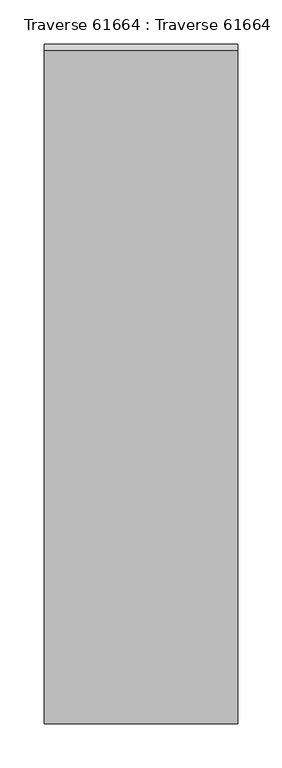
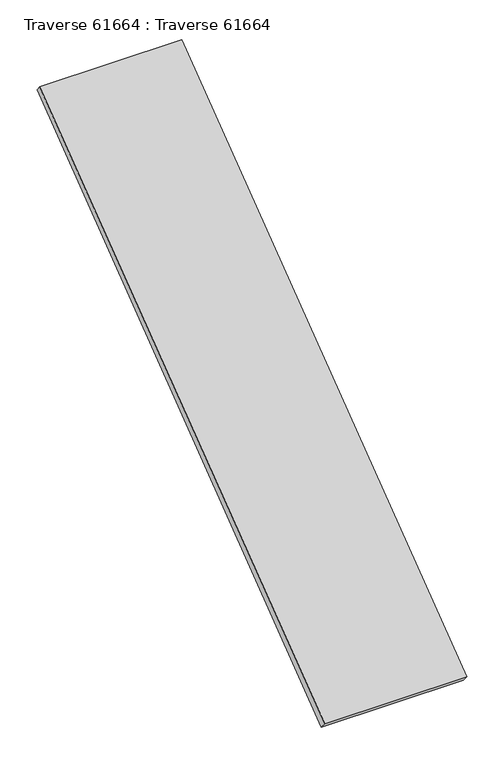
"""IFC4 building model written with IfcOpenShell, lengths in millimetres: beam geometry, Traverse 61664 : Traverse 61664."""

import ifcopenshell
import ifcopenshell.guid

model = None  # the IFC model being written
_history = None  # IfcOwnerHistory: only IFC2X3 demands one
_inside = {}  # id of a spatial element -> (the spatial element, [elements in it])
_under = {}  # id of a project, library or spatial element -> (it, [spatial elements below it])
_declared = {}  # id of a project -> (the project, [libraries it declares])
_typed = {}  # id of a type object -> (the type object, [elements of that type])
_made_of = {}  # id of a material, layer set ... -> (it, [elements and type objects made of it])


def new_model(schema):
    """Start an empty IFC model of exactly this schema.

    Asked for "IFC4X3", IfcOpenShell would pick the latest addendum, in which some entities
    have other attributes; the version numbers below select the first issue.
    IFC2X3 requires an IfcOwnerHistory on every rooted entity: one is made here for all.
    """
    global model, _history
    if schema == "IFC4X3":
        model = ifcopenshell.file(schema_version=(4, 3, 0, 0))
    else:
        model = ifcopenshell.file(schema=schema)
    _inside.clear()
    _under.clear()
    _declared.clear()
    _typed.clear()
    _made_of.clear()
    _history = None
    if model.schema == "IFC2X3":
        org = make("IfcOrganization", Name="unknown")
        user = make(
            "IfcPersonAndOrganization",
            ThePerson=make("IfcPerson", FamilyName="unknown"),
            TheOrganization=org,
        )
        app = make(
            "IfcApplication",
            ApplicationDeveloper=org,
            Version="unknown",
            ApplicationFullName="unknown",
            ApplicationIdentifier="unknown",
        )
        _history = make(
            "IfcOwnerHistory",
            OwningUser=user,
            OwningApplication=app,
            ChangeAction="ADDED",
            CreationDate=0,
        )
    return model


def make(cls, **values):
    """One entity of the class cls with the attributes given. An attribute that is None is left unset."""
    return model.create_entity(
        cls, **{name: value for name, value in values.items() if value is not None}
    )


def rooted(cls, **values):
    """An entity with a GlobalId (a new one), such as an element, a storey or a relation."""
    return make(cls, GlobalId=ifcopenshell.guid.new(), OwnerHistory=_history, **values)


def si_unit(unit_type, name, prefix=None):
    """IfcSIUnit, for example si_unit("LENGTHUNIT", "METRE", prefix="MILLI")."""
    return make("IfcSIUnit", UnitType=unit_type, Prefix=prefix, Name=name)


def assignment(units):
    """IfcUnitAssignment: the units of a project."""
    return None if units is None else make("IfcUnitAssignment", Units=units)


def point(xyz):
    """IfcCartesianPoint."""
    return None if xyz is None else make("IfcCartesianPoint", Coordinates=xyz)


def direction(xyz):
    """IfcDirection."""
    return None if xyz is None else make("IfcDirection", DirectionRatios=xyz)


def frame(location, z_axis=None, x_axis=None):
    """IfcAxis2Placement3D, a coordinate frame: its origin and axes. An axis left out is left unset."""
    return make(
        "IfcAxis2Placement3D",
        Location=point(location),
        Axis=direction(z_axis),
        RefDirection=direction(x_axis),
    )


def origin():
    """The frame at (0, 0, 0) with its axes left unset."""
    return frame((0.0, 0.0, 0.0))


def place(relative_to, where):
    """IfcLocalPlacement: puts the frame where relative to a parent placement (None: the world)."""
    return make(
        "IfcLocalPlacement", PlacementRelTo=relative_to, RelativePlacement=where
    )


def context(
    kind, dimensions, precision=None, world=None, true_north=None, identifier=None
):
    """IfcGeometricRepresentationContext, for example the 3D "Model" context."""
    return make(
        "IfcGeometricRepresentationContext",
        ContextIdentifier=identifier,
        ContextType=kind,
        CoordinateSpaceDimension=dimensions,
        Precision=precision,
        WorldCoordinateSystem=world,
        TrueNorth=true_north,
    )


def project(units=None, contexts=None):
    """IfcProject with its units and contexts."""
    return rooted(
        "IfcProject",
        Name="project",
        RepresentationContexts=contexts,
        UnitsInContext=assignment(units),
    )


def spatial(cls, under=None, at=None, **own):
    """A site, building, storey or space (cls), placed at a placement, below another one or the project."""
    s = rooted(cls, ObjectPlacement=at, **own)
    if under is not None:
        _under.setdefault(under.id(), (under, []))[1].append(s)
    return s


def polyline(points):
    """IfcPolyline through the points."""
    return make("IfcPolyline", Points=[point(p) for p in points])


def outline(outer, holes=None, kind="AREA"):
    """IfcArbitraryClosedProfileDef: a profile drawn as a closed curve; with holes, ...WithVoids."""
    if holes is None:
        return make("IfcArbitraryClosedProfileDef", ProfileType=kind, OuterCurve=outer)
    return make(
        "IfcArbitraryProfileDefWithVoids",
        ProfileType=kind,
        OuterCurve=outer,
        InnerCurves=holes,
    )


def extrude(swept, where, along, depth):
    """IfcExtrudedAreaSolid: the profile swept, set in the frame where, extruded along a direction by depth."""
    return make(
        "IfcExtrudedAreaSolid",
        SweptArea=swept,
        Position=where,
        ExtrudedDirection=direction(along),
        Depth=depth,
    )


def shape(context_of_items, identifier, shape_type, items):
    """IfcShapeRepresentation: the items that make up one representation, for example the "Body"."""
    return make(
        "IfcShapeRepresentation",
        ContextOfItems=context_of_items,
        RepresentationIdentifier=identifier,
        RepresentationType=shape_type,
        Items=items,
    )


def source(mapping_origin, context_of_items, identifier, shape_type, items):
    """IfcRepresentationMap: a shape defined once, which mapped items show again and again."""
    return make(
        "IfcRepresentationMap",
        MappingOrigin=mapping_origin,
        MappedRepresentation=shape(context_of_items, identifier, shape_type, items),
    )


def transform(
    local_origin,
    x_axis=None,
    y_axis=None,
    z_axis=None,
    scale=None,
    scale2=None,
    scale3=None,
    uniform=True,
):
    """IfcCartesianTransformationOperator3D, or its non-uniform kind. x_axis, y_axis, z_axis: its Axis1, 2, 3."""
    if uniform:
        return make(
            "IfcCartesianTransformationOperator3D",
            Axis1=direction(x_axis),
            Axis2=direction(y_axis),
            LocalOrigin=point(local_origin),
            Scale=scale,
            Axis3=direction(z_axis),
        )
    return make(
        "IfcCartesianTransformationOperator3DnonUniform",
        Axis1=direction(x_axis),
        Axis2=direction(y_axis),
        LocalOrigin=point(local_origin),
        Scale=scale,
        Axis3=direction(z_axis),
        Scale2=scale2,
        Scale3=scale3,
    )


def mapped(mapping_source, mapping_target):
    """IfcMappedItem: shows the shape of a source again, moved by a transform."""
    return make(
        "IfcMappedItem", MappingSource=mapping_source, MappingTarget=mapping_target
    )


def made_of(thing, what):
    """Note that an element or type object is made of a material, layer set ...; save() writes the relation."""
    if what is not None:
        _made_of.setdefault(what.id(), (what, []))[1].append(thing)
    return thing


def element(
    cls,
    number,
    at=None,
    inside=None,
    cuts=None,
    type_object=None,
    material=None,
    context=None,
    identifier="Body",
    shape_type=None,
    held_by="IfcProductDefinitionShape",
    body=None,
    shapes=None,
    **own,
):
    """One element of the class cls, such as IfcWall. Its Tag is "e" and its number.

    at: its placement. inside: the storey or other place that contains it. cuts: it is an
    opening in that element (IfcRelVoidsElement). A single representation is given by context,
    identifier, shape_type and body (its items); several are given by shapes. held_by: the class
    of the entity that holds the representations. save() writes the other relations.
    """
    e = rooted(cls, Tag="e%d" % number, ObjectPlacement=at, **own)
    if body is not None:
        shapes = [shape(context, identifier, shape_type, body)]
    if shapes is not None:
        e.Representation = make(held_by, Representations=shapes)
    if inside is not None:
        _inside.setdefault(inside.id(), (inside, []))[1].append(e)
    if cuts is not None:
        rooted(
            "IfcRelVoidsElement", RelatingBuildingElement=cuts, RelatedOpeningElement=e
        )
    if type_object is not None:
        _typed.setdefault(type_object.id(), (type_object, []))[1].append(e)
    return made_of(e, material)


def aggregate(whole, parts):
    """IfcRelAggregates: a whole, such as a stair, and the parts it consists of."""
    return rooted("IfcRelAggregates", RelatingObject=whole, RelatedObjects=parts)


def save(model, path):
    """Write the relations noted so far, then the file.

    IfcRelAggregates (storeys below a building ...), IfcRelContainedInSpatialStructure (elements
    in a storey), IfcRelDefinesByType, IfcRelAssociatesMaterial and IfcRelDeclares: one each for
    every whole, place, type object, material and project.
    """
    for whole, parts in _under.values():
        aggregate(whole, parts)
    for where, things in _inside.values():
        rooted(
            "IfcRelContainedInSpatialStructure",
            RelatedElements=things,
            RelatingStructure=where,
        )
    for kind, things in _typed.values():
        rooted("IfcRelDefinesByType", RelatedObjects=things, RelatingType=kind)
    for what, things in _made_of.values():
        rooted("IfcRelAssociatesMaterial", RelatedObjects=things, RelatingMaterial=what)
    for by, libraries in _declared.values():
        rooted("IfcRelDeclares", RelatingContext=by, RelatedDefinitions=libraries)
    model.write(path)


def traverse_61664_traverse_61664_11ca76d0(model_context):
    return source(origin(), model_context, "Body", "SweptSolid", [
        extrude(outline(polyline([(-7981.0, 6850.3937869), (-7215.663425, 7430.14), (-7208.4642199, 7420.6361605), (-7971.9689348, 6838.4716659), (-7981.0, 6850.3937869)])), frame((-110.0000001, 0.0, 0.0), z_axis=(1.0, 0.0, 0.0), x_axis=(0.0, 1.0, 0.0)), (0.0, 0.0, 1.0), 220.0),
    ])


if __name__ == "__main__":
    model = new_model("IFC4")
    model_context = context("Model", 3, world=origin())
    ifc_project = project(units=[si_unit("LENGTHUNIT", "METRE", prefix="MILLI")], contexts=[model_context])
    site = spatial("IfcSite", under=ifc_project)
    building = spatial("IfcBuilding", under=site)
    placement = place(None, origin())
    traverse_61664_traverse_61664_shape = traverse_61664_traverse_61664_11ca76d0(model_context)
    element("IfcBeam", 1, ObjectType="Traverse 61664 : Traverse 61664", at=placement, inside=building, context=model_context, shape_type="MappedRepresentation", body=[
        mapped(traverse_61664_traverse_61664_shape, transform((0.0, 0.0, 0.0), x_axis=(1.0, 0.0, 0.0), y_axis=(0.0, 1.0, 0.0), z_axis=(0.0, 0.0, 1.0))),
    ])
    save(model, "model.ifc")
